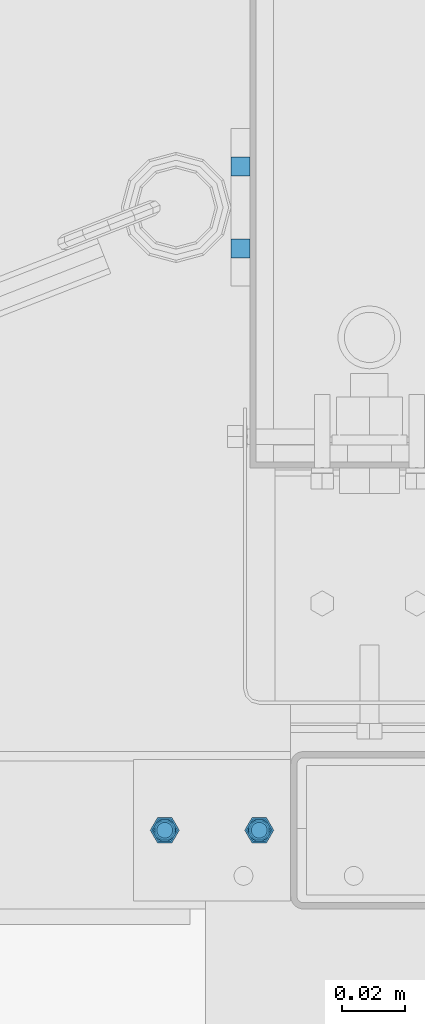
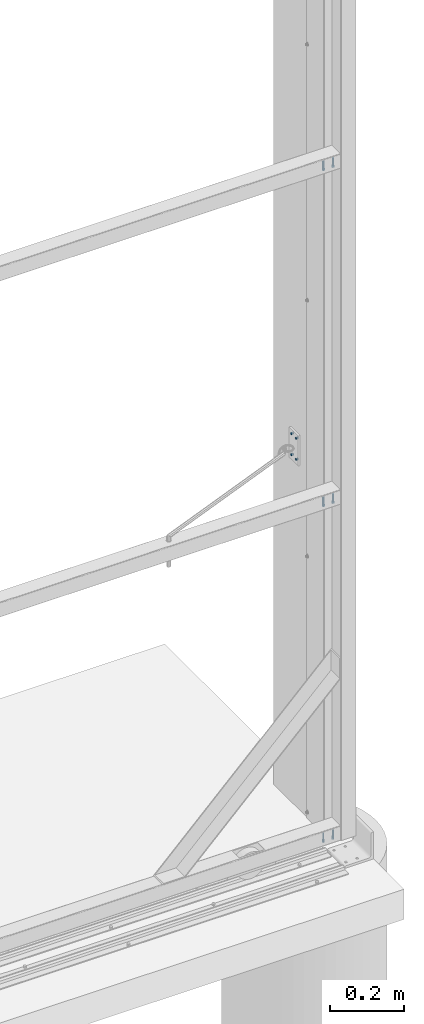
# One storey, part 64 of 91: 7 mechanical fasteners, 2 elements without a shape of their own.
"""IFC2X3 building model written with IfcOpenShell, lengths in millimetres."""

from ifc_helpers import new_model, si_unit, frame, origin_with_axes, origin_2d_with_axis, place, context, subcontext, project, spatial, polyline, circle, outline, extrude, source, transform, mapped, material, type_object, element, aggregate, save


model = new_model("IFC2X3")

# Units and contexts
model_context = context("Model", 3, precision=1e-05, world=origin_with_axes())
body_context = subcontext(model_context, "Body", "Model", "MODEL_VIEW")
ifc_project = project(units=[si_unit("LENGTHUNIT", "METRE", prefix="MILLI"), si_unit("AREAUNIT", "SQUARE_METRE"), si_unit("VOLUMEUNIT", "CUBIC_METRE"), si_unit("MASSUNIT", "GRAM", prefix="KILO"), si_unit("TIMEUNIT", "SECOND"), si_unit("PLANEANGLEUNIT", "RADIAN"), si_unit("SOLIDANGLEUNIT", "STERADIAN"), si_unit("THERMODYNAMICTEMPERATUREUNIT", "DEGREE_CELSIUS"), si_unit("LUMINOUSINTENSITYUNIT", "LUMEN")], contexts=[model_context])

# Site, building, storey
site_placement = place(None, origin_with_axes())
site = spatial("IfcSite", under=ifc_project, at=site_placement, Name="Undefined", CompositionType="ELEMENT")
building_placement = place(site_placement, origin_with_axes())
building = spatial("IfcBuilding", under=site, at=building_placement, Name="Undefined", CompositionType="ELEMENT")
storey_placement = place(building_placement, origin_with_axes())
storey = spatial("IfcBuildingStorey", under=building, at=storey_placement, Name="Undefined", CompositionType="ELEMENT", Elevation=0.0)

# Assembly, mechanical fasteners
assembly_1_placement = place(storey_placement, origin_with_axes())
assembly_1 = element("IfcElementAssembly", 1, at=assembly_1_placement, inside=storey, Name="PLATE", AssemblyPlace="NOTDEFINED", PredefinedType="RIGID_FRAME")
ifc_material_1 = material(Name="8.8S")
discrete_accessory_type = type_object("IfcDiscreteAccessoryType", Name="Bolt assembly")
shared_shape_1 = source(origin_with_axes(), body_context, "Body", "SweptSolid", [
    extrude(circle(Radius=3.0, at=origin_2d_with_axis()), frame((0.0, 0.0, 0.0), z_axis=(0.0, 1.0, 0.0), x_axis=(1.0, 0.0, 0.0)), (0.0, 0.0, 1.0), 6.1),
])
mechanical_fastener_1_placement = place(assembly_1_placement, frame((-107727.337393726, 84922.9017781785, 1127.34478745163), z_axis=(0.0, 1.0, 0.0), x_axis=(0.0, 0.0, 1.0)))
mechanical_fastener_1 = element("IfcMechanicalFastener", 2, at=mechanical_fastener_1_placement, type_object=discrete_accessory_type, material=ifc_material_1, Name="Bolt assembly", NominalDiameter=6.0, NominalLength=6.0, context=body_context, shape_type="MappedRepresentation", body=[
    mapped(shared_shape_1, transform((0.0, 0.0, 0.0))),
])
mechanical_fastener_2_placement = place(assembly_1_placement, frame((-107727.337393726, 84896.8982218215, 1127.34478745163), z_axis=(0.0, 1.0, 0.0), x_axis=(0.0, 0.0, 1.0)))
mechanical_fastener_2 = element("IfcMechanicalFastener", 3, at=mechanical_fastener_2_placement, type_object=discrete_accessory_type, material=ifc_material_1, Name="Bolt assembly", NominalDiameter=6.0, NominalLength=6.0, context=body_context, shape_type="MappedRepresentation", body=[
    mapped(shared_shape_1, transform((0.0, 0.0, 0.0))),
])
mechanical_fastener_3_placement = place(assembly_1_placement, frame((-107727.337393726, 84922.9017781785, 1197.34), z_axis=(0.0, -1.0, 0.0), x_axis=(0.0, 0.0, -1.0)))
mechanical_fastener_3 = element("IfcMechanicalFastener", 4, at=mechanical_fastener_3_placement, type_object=discrete_accessory_type, material=ifc_material_1, Name="Bolt assembly", NominalDiameter=6.0, NominalLength=6.0, context=body_context, shape_type="MappedRepresentation", body=[
    mapped(shared_shape_1, transform((0.0, 0.0, 0.0))),
])
mechanical_fastener_4_placement = place(assembly_1_placement, frame((-107727.337393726, 84896.8982218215, 1197.34), z_axis=(0.0, -1.0, 0.0), x_axis=(0.0, 0.0, -1.0)))
mechanical_fastener_4 = element("IfcMechanicalFastener", 5, at=mechanical_fastener_4_placement, type_object=discrete_accessory_type, material=ifc_material_1, Name="Bolt assembly", NominalDiameter=6.0, NominalLength=6.0, context=body_context, shape_type="MappedRepresentation", body=[
    mapped(shared_shape_1, transform((0.0, 0.0, 0.0))),
])
aggregate(assembly_1, [mechanical_fastener_1, mechanical_fastener_2, mechanical_fastener_3, mechanical_fastener_4])

assembly_2_placement = place(storey_placement, origin_with_axes())
assembly_2 = element("IfcElementAssembly", 6, at=assembly_2_placement, inside=storey, Name="SLIDING DOOR", AssemblyPlace="NOTDEFINED", PredefinedType="RIGID_FRAME")
ifc_material_2 = material(Name="TEK_11TPIM")
shared_shape_2 = source(origin_with_axes(), body_context, "Body", "SweptSolid", [
    extrude(circle(Radius=3.0, at=origin_2d_with_axis()), frame((0.0, 0.103333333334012, 0.0), z_axis=(0.0, 1.0, 0.0), x_axis=(1.0, 0.0, 0.0)), (0.0, 0.0, 1.0), 2.0),
    extrude(circle(Radius=3.0, at=origin_2d_with_axis()), frame((0.0, 2.4, 0.0), z_axis=(0.0, 1.0, 0.0), x_axis=(1.0, 0.0, 0.0)), (0.0, 0.0, 1.0), 1.7),
    extrude(outline(polyline([(4.61880215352, 0.0), (2.30940107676, 4.00000000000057), (-2.30940107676, 4.00000000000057), (-4.61880215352, 0.0), (-2.30940107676, -4.00000000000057), (2.30940107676, -4.00000000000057), (4.61880215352, 0.0)])), frame((0.0, -4.99666666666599, 0.0), z_axis=(0.0, 1.0, 0.0), x_axis=(1.0, 0.0, 0.0)), (0.0, 0.0, 1.0), 5.0),
    extrude(circle(Radius=3.0, at=origin_2d_with_axis()), frame((0.0, 0.0033333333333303, 0.0), z_axis=(0.0, 1.0, 0.0), x_axis=(1.0, 0.0, 0.0)), (0.0, 0.0, 1.0), 25.0),
    extrude(circle(Radius=3.0, at=origin_2d_with_axis()), frame((0.0, 4.10000002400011, 0.0), z_axis=(0.0, 1.0, 0.0), x_axis=(1.0, 0.0, 0.0)), (0.0, 0.0, 1.0), 0.1),
    extrude(outline(polyline([(3.46410161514, 0.0), (1.73205080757, 3.00000000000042), (-1.73205080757, 3.00000000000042), (-3.46410161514, 0.0), (-1.73205080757, -3.00000000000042), (1.73205080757, -3.00000000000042), (3.46410161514, 0.0)])), frame((0.0, 4.20000002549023, 0.0), z_axis=(0.0, 1.0, 0.0), x_axis=(1.0, 0.0, 0.0)), (0.0, 0.0, 1.0), 0.1),
])
mechanical_fastener_5_placement = place(assembly_2_placement, frame((-107748.34, 84712.15, 2211.66), z_axis=(0.0, -1.0, 0.0), x_axis=(1.0, 0.0, 0.0)))
mechanical_fastener_5 = element("IfcMechanicalFastener", 7, at=mechanical_fastener_5_placement, type_object=discrete_accessory_type, material=ifc_material_2, Name="Bolt assembly", NominalDiameter=6.0, NominalLength=25.0, context=body_context, shape_type="MappedRepresentation", body=[
    mapped(shared_shape_2, transform((0.0, 0.0, 0.0))),
    mapped(shared_shape_2, transform((30.0, 0.0, 0.0))),
])
shared_shape_3 = source(origin_with_axes(), body_context, "Body", "SweptSolid", [
    extrude(circle(Radius=3.0, at=origin_2d_with_axis()), frame((0.0, 0.0966666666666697, 0.0), z_axis=(0.0, 1.0, 0.0), x_axis=(1.0, 0.0, 0.0)), (0.0, 0.0, 1.0), 2.0),
    extrude(circle(Radius=3.0, at=origin_2d_with_axis()), frame((0.0, 2.4, 0.0), z_axis=(0.0, 1.0, 0.0), x_axis=(1.0, 0.0, 0.0)), (0.0, 0.0, 1.0), 1.7),
    extrude(outline(polyline([(4.61880215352, 0.0), (2.30940107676, 4.00000000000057), (-2.30940107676, 4.00000000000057), (-4.61880215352, 0.0), (-2.30940107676, -4.00000000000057), (2.30940107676, -4.00000000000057), (4.61880215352, 0.0)])), frame((0.0, -5.00333333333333, 0.0), z_axis=(0.0, 1.0, 0.0), x_axis=(1.0, 0.0, 0.0)), (0.0, 0.0, 1.0), 5.0),
    extrude(circle(Radius=3.0, at=origin_2d_with_axis()), frame((0.0, -0.0033333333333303, 0.0), z_axis=(0.0, 1.0, 0.0), x_axis=(1.0, 0.0, 0.0)), (0.0, 0.0, 1.0), 25.0),
    extrude(circle(Radius=3.0, at=origin_2d_with_axis()), frame((0.0, 4.10000002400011, 0.0), z_axis=(0.0, 1.0, 0.0), x_axis=(1.0, 0.0, 0.0)), (0.0, 0.0, 1.0), 0.1),
    extrude(outline(polyline([(3.46410161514, 0.0), (1.73205080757, 3.00000000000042), (-1.73205080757, 3.00000000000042), (-3.46410161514, 0.0), (-1.73205080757, -3.00000000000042), (1.73205080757, -3.00000000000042), (3.46410161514, 0.0)])), frame((0.0, 4.20000002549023, 0.0), z_axis=(0.0, 1.0, 0.0), x_axis=(1.0, 0.0, 0.0)), (0.0, 0.0, 1.0), 0.1),
])
mechanical_fastener_6_placement = place(assembly_2_placement, frame((-107748.34, 84712.15, 1097.34), z_axis=(0.0, -1.0, 0.0), x_axis=(1.0, 0.0, 0.0)))
mechanical_fastener_6 = element("IfcMechanicalFastener", 8, at=mechanical_fastener_6_placement, type_object=discrete_accessory_type, material=ifc_material_2, Name="Bolt assembly", NominalDiameter=6.0, NominalLength=25.0, context=body_context, shape_type="MappedRepresentation", body=[
    mapped(shared_shape_3, transform((0.0, 0.0, 0.0))),
    mapped(shared_shape_3, transform((30.0, 0.0, 0.0))),
])
ifc_material_3 = material(Name="TEK_16TPIM")
shared_shape_4 = source(origin_with_axes(), body_context, "Body", "SweptSolid", [
    extrude(circle(Radius=3.5, at=origin_2d_with_axis()), frame((0.0, 0.1, 0.0), z_axis=(0.0, 1.0, 0.0), x_axis=(1.0, 0.0, 0.0)), (0.0, 0.0, 1.0), 2.0),
    extrude(circle(Radius=3.5, at=origin_2d_with_axis()), frame((0.0, 2.4, 0.0), z_axis=(0.0, 1.0, 0.0), x_axis=(1.0, 0.0, 0.0)), (0.0, 0.0, 1.0), 1.7),
    extrude(outline(polyline([(4.04145188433, 0.0), (2.020725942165, 3.5000000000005), (-2.020725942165, 3.5000000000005), (-4.04145188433, 0.0), (-2.020725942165, -3.5000000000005), (2.020725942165, -3.5000000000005), (4.04145188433, 0.0)])), frame((0.0, -5.0, 0.0), z_axis=(0.0, 1.0, 0.0), x_axis=(1.0, 0.0, 0.0)), (0.0, 0.0, 1.0), 5.0),
    extrude(circle(Radius=2.5, at=origin_2d_with_axis()), frame((0.0, 0.0, 0.0), z_axis=(0.0, 1.0, 0.0), x_axis=(1.0, 0.0, 0.0)), (0.0, 0.0, 1.0), 25.0),
    extrude(circle(Radius=2.5, at=origin_2d_with_axis()), frame((0.0, 4.10000002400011, 0.0), z_axis=(0.0, 1.0, 0.0), x_axis=(1.0, 0.0, 0.0)), (0.0, 0.0, 1.0), 0.1),
    extrude(outline(polyline([(2.88675134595, 0.0), (1.443375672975, 2.50000000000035), (-1.443375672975, 2.50000000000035), (-2.88675134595, 0.0), (-1.443375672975, -2.50000000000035), (1.443375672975, -2.50000000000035), (2.88675134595, 0.0)])), frame((0.0, 4.20000002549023, 0.0), z_axis=(0.0, 1.0, 0.0), x_axis=(1.0, 0.0, 0.0)), (0.0, 0.0, 1.0), 0.1),
])
mechanical_fastener_7_placement = place(assembly_2_placement, frame((-107748.34, 84712.15, -17.0), z_axis=(0.0, -1.0, 0.0), x_axis=(1.0, 0.0, 0.0)))
mechanical_fastener_7 = element("IfcMechanicalFastener", 9, at=mechanical_fastener_7_placement, type_object=discrete_accessory_type, material=ifc_material_3, Name="Bolt assembly", NominalDiameter=5.0, NominalLength=25.0, context=body_context, shape_type="MappedRepresentation", body=[
    mapped(shared_shape_4, transform((0.0, 0.0, 0.0))),
    mapped(shared_shape_4, transform((30.0, 0.0, 0.0))),
])
aggregate(assembly_2, [mechanical_fastener_5, mechanical_fastener_6, mechanical_fastener_7])

save(model, "model.ifc")
